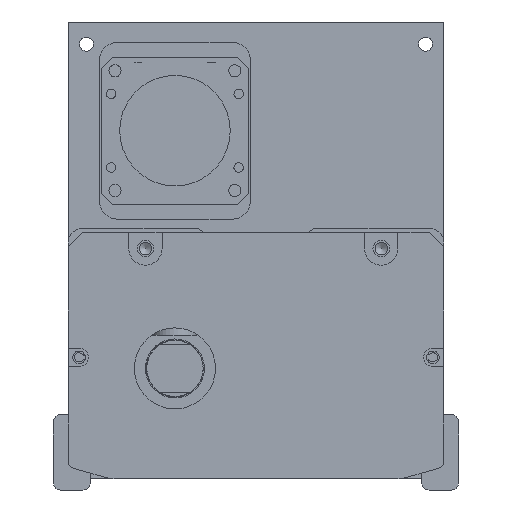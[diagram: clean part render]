
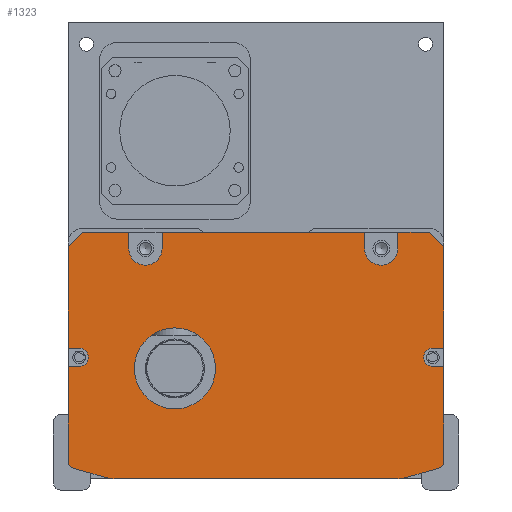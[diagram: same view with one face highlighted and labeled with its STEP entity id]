
A CAD part, front view. The second image highlights one B-rep face of the part: STEP entity #1323.
In plain terms, the highlighted planar face has unit normal (0, -1, 0).
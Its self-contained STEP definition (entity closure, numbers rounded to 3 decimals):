
#1323=ADVANCED_FACE('',(#3944,#3945),#2092,.F.);
#2092=PLANE('',#12837);
#2475=LINE('',#18355,#3237);
#2476=LINE('',#18358,#3238);
#2477=LINE('',#18360,#3239);
#2478=LINE('',#18362,#3240);
#2479=LINE('',#18366,#3241);
#2480=LINE('',#18368,#3242);
#2481=LINE('',#18370,#3243);
#2482=LINE('',#18374,#3244);
#2483=LINE('',#18376,#3245);
#2484=LINE('',#18378,#3246);
#2485=LINE('',#18380,#3247);
#2486=LINE('',#18382,#3248);
#2487=LINE('',#18386,#3249);
#2488=LINE('',#18388,#3250);
#2489=LINE('',#18392,#3251);
#2490=LINE('',#18396,#3252);
#2491=LINE('',#18400,#3253);
#2492=LINE('',#18404,#3254);
#2493=LINE('',#18406,#3255);
#2494=LINE('',#18410,#3256);
#3237=VECTOR('',#14536,1.);
#3238=VECTOR('',#14537,1.);
#3239=VECTOR('',#14538,1.);
#3240=VECTOR('',#14539,1.);
#3241=VECTOR('',#14542,1.);
#3242=VECTOR('',#14543,1.);
#3243=VECTOR('',#14544,1.);
#3244=VECTOR('',#14547,1.);
#3245=VECTOR('',#14548,1.);
#3246=VECTOR('',#14549,1.);
#3247=VECTOR('',#14550,1.);
#3248=VECTOR('',#14551,1.);
#3249=VECTOR('',#14554,1.);
#3250=VECTOR('',#14555,1.);
#3251=VECTOR('',#14558,1.);
#3252=VECTOR('',#14561,1.);
#3253=VECTOR('',#14564,1.);
#3254=VECTOR('',#14567,1.);
#3255=VECTOR('',#14568,1.);
#3256=VECTOR('',#14571,1.);
#3944=FACE_BOUND('',#4582,.T.);
#3945=FACE_BOUND('',#4583,.T.);
#4582=EDGE_LOOP('',(#5837,#5838,#5839,#5840,#5841,#5842,#5843,#5844,#5845,
#5846,#5847,#5848,#5849,#5850,#5851,#5852,#5853,#5854,#5855,#5856,#5857,
#5858,#5859,#5860,#5861,#5862,#5863,#5864));
#4583=EDGE_LOOP('',(#5865));
#5837=ORIENTED_EDGE('',*,*,#10468,.T.);
#5838=ORIENTED_EDGE('',*,*,#10469,.T.);
#5839=ORIENTED_EDGE('',*,*,#10470,.T.);
#5840=ORIENTED_EDGE('',*,*,#10471,.F.);
#5841=ORIENTED_EDGE('',*,*,#10472,.T.);
#5842=ORIENTED_EDGE('',*,*,#10473,.F.);
#5843=ORIENTED_EDGE('',*,*,#10474,.T.);
#5844=ORIENTED_EDGE('',*,*,#10475,.F.);
#5845=ORIENTED_EDGE('',*,*,#10476,.T.);
#5846=ORIENTED_EDGE('',*,*,#10477,.F.);
#5847=ORIENTED_EDGE('',*,*,#10478,.T.);
#5848=ORIENTED_EDGE('',*,*,#10479,.T.);
#5849=ORIENTED_EDGE('',*,*,#10480,.T.);
#5850=ORIENTED_EDGE('',*,*,#10481,.T.);
#5851=ORIENTED_EDGE('',*,*,#10482,.T.);
#5852=ORIENTED_EDGE('',*,*,#10483,.T.);
#5853=ORIENTED_EDGE('',*,*,#10484,.T.);
#5854=ORIENTED_EDGE('',*,*,#10485,.T.);
#5855=ORIENTED_EDGE('',*,*,#10486,.T.);
#5856=ORIENTED_EDGE('',*,*,#10487,.T.);
#5857=ORIENTED_EDGE('',*,*,#10488,.T.);
#5858=ORIENTED_EDGE('',*,*,#10489,.T.);
#5859=ORIENTED_EDGE('',*,*,#10490,.T.);
#5860=ORIENTED_EDGE('',*,*,#10491,.T.);
#5861=ORIENTED_EDGE('',*,*,#10492,.T.);
#5862=ORIENTED_EDGE('',*,*,#10493,.T.);
#5863=ORIENTED_EDGE('',*,*,#10494,.T.);
#5864=ORIENTED_EDGE('',*,*,#10495,.T.);
#5865=ORIENTED_EDGE('',*,*,#10496,.T.);
#9244=VERTEX_POINT('',#18356);
#9245=VERTEX_POINT('',#18357);
#9246=VERTEX_POINT('',#18359);
#9247=VERTEX_POINT('',#18361);
#9248=VERTEX_POINT('',#18363);
#9249=VERTEX_POINT('',#18365);
#9250=VERTEX_POINT('',#18367);
#9251=VERTEX_POINT('',#18369);
#9252=VERTEX_POINT('',#18371);
#9253=VERTEX_POINT('',#18373);
#9254=VERTEX_POINT('',#18375);
#9255=VERTEX_POINT('',#18377);
#9256=VERTEX_POINT('',#18379);
#9257=VERTEX_POINT('',#18381);
#9258=VERTEX_POINT('',#18383);
#9259=VERTEX_POINT('',#18385);
#9260=VERTEX_POINT('',#18387);
#9261=VERTEX_POINT('',#18389);
#9262=VERTEX_POINT('',#18391);
#9263=VERTEX_POINT('',#18393);
#9264=VERTEX_POINT('',#18395);
#9265=VERTEX_POINT('',#18397);
#9266=VERTEX_POINT('',#18399);
#9267=VERTEX_POINT('',#18401);
#9268=VERTEX_POINT('',#18403);
#9269=VERTEX_POINT('',#18405);
#9270=VERTEX_POINT('',#18407);
#9271=VERTEX_POINT('',#18409);
#9272=VERTEX_POINT('',#18412);
#10468=EDGE_CURVE('',#9244,#9245,#2475,.T.);
#10469=EDGE_CURVE('',#9245,#9246,#2476,.T.);
#10470=EDGE_CURVE('',#9246,#9247,#2477,.T.);
#10471=EDGE_CURVE('',#9248,#9247,#2478,.T.);
#10472=EDGE_CURVE('',#9248,#9249,#12077,.T.);
#10473=EDGE_CURVE('',#9250,#9249,#2479,.T.);
#10474=EDGE_CURVE('',#9250,#9251,#2480,.T.);
#10475=EDGE_CURVE('',#9252,#9251,#2481,.T.);
#10476=EDGE_CURVE('',#9252,#9253,#12078,.T.);
#10477=EDGE_CURVE('',#9254,#9253,#2482,.T.);
#10478=EDGE_CURVE('',#9254,#9255,#2483,.T.);
#10479=EDGE_CURVE('',#9255,#9256,#2484,.T.);
#10480=EDGE_CURVE('',#9256,#9257,#2485,.T.);
#10481=EDGE_CURVE('',#9257,#9258,#2486,.T.);
#10482=EDGE_CURVE('',#9258,#9259,#12079,.T.);
#10483=EDGE_CURVE('',#9259,#9260,#2487,.T.);
#10484=EDGE_CURVE('',#9260,#9261,#2488,.T.);
#10485=EDGE_CURVE('',#9261,#9262,#12080,.T.);
#10486=EDGE_CURVE('',#9262,#9263,#2489,.T.);
#10487=EDGE_CURVE('',#9263,#9264,#12081,.T.);
#10488=EDGE_CURVE('',#9264,#9265,#2490,.T.);
#10489=EDGE_CURVE('',#9265,#9266,#12082,.T.);
#10490=EDGE_CURVE('',#9266,#9267,#2491,.T.);
#10491=EDGE_CURVE('',#9267,#9268,#12083,.T.);
#10492=EDGE_CURVE('',#9268,#9269,#2492,.T.);
#10493=EDGE_CURVE('',#9269,#9270,#2493,.T.);
#10494=EDGE_CURVE('',#9270,#9271,#12084,.T.);
#10495=EDGE_CURVE('',#9271,#9244,#2494,.T.);
#10496=EDGE_CURVE('',#9272,#9272,#12085,.T.);
#12077=CIRCLE('',#12828,4.5);
#12078=CIRCLE('',#12829,4.5);
#12079=CIRCLE('',#12830,2.5);
#12080=CIRCLE('',#12831,2.);
#12081=CIRCLE('',#12832,10.);
#12082=CIRCLE('',#12833,10.);
#12083=CIRCLE('',#12834,2.);
#12084=CIRCLE('',#12835,2.5);
#12085=CIRCLE('',#12836,11.);
#12828=AXIS2_PLACEMENT_3D('',#18364,#14540,#14541);
#12829=AXIS2_PLACEMENT_3D('',#18372,#14545,#14546);
#12830=AXIS2_PLACEMENT_3D('',#18384,#14552,#14553);
#12831=AXIS2_PLACEMENT_3D('',#18390,#14556,#14557);
#12832=AXIS2_PLACEMENT_3D('',#18394,#14559,#14560);
#12833=AXIS2_PLACEMENT_3D('',#18398,#14562,#14563);
#12834=AXIS2_PLACEMENT_3D('',#18402,#14565,#14566);
#12835=AXIS2_PLACEMENT_3D('',#18408,#14569,#14570);
#12836=AXIS2_PLACEMENT_3D('',#18411,#14572,#14573);
#12837=AXIS2_PLACEMENT_3D('',#18413,#14574,#14575);
#14536=DIRECTION('',(0.,0.,1.));
#14537=DIRECTION('',(-0.707,0.,0.707));
#14538=DIRECTION('',(-1.,0.,0.));
#14539=DIRECTION('',(0.,0.,1.));
#14540=DIRECTION('',(0.,1.,0.));
#14541=DIRECTION('',(0.,0.,1.));
#14542=DIRECTION('',(0.,0.,-1.));
#14543=DIRECTION('',(-1.,0.,0.));
#14544=DIRECTION('',(0.,0.,1.));
#14545=DIRECTION('',(0.,1.,0.));
#14546=DIRECTION('',(0.,0.,1.));
#14547=DIRECTION('',(0.,0.,-1.));
#14548=DIRECTION('',(-1.,0.,0.));
#14549=DIRECTION('',(-0.707,0.,-0.707));
#14550=DIRECTION('',(0.,0.,-1.));
#14551=DIRECTION('',(1.,0.,0.));
#14552=DIRECTION('',(0.,1.,0.));
#14553=DIRECTION('',(0.,0.,1.));
#14554=DIRECTION('',(-1.,0.,0.));
#14555=DIRECTION('',(0.,0.,-1.));
#14556=DIRECTION('',(0.,-1.,0.));
#14557=DIRECTION('',(0.,0.,1.));
#14558=DIRECTION('',(0.963,0.,-0.269));
#14559=DIRECTION('',(0.,-1.,0.));
#14560=DIRECTION('',(0.,0.,1.));
#14561=DIRECTION('',(1.,0.,0.));
#14562=DIRECTION('',(0.,-1.,0.));
#14563=DIRECTION('',(0.,0.,-1.));
#14564=DIRECTION('',(0.963,0.,0.269));
#14565=DIRECTION('',(0.,-1.,0.));
#14566=DIRECTION('',(0.,0.,-1.));
#14567=DIRECTION('',(0.,0.,1.));
#14568=DIRECTION('',(-1.,0.,0.));
#14569=DIRECTION('',(0.,1.,0.));
#14570=DIRECTION('',(0.,0.,1.));
#14571=DIRECTION('',(1.,0.,0.));
#14572=DIRECTION('',(0.,1.,0.));
#14573=DIRECTION('',(0.,0.,1.));
#14574=DIRECTION('',(0.,1.,0.));
#14575=DIRECTION('',(-1.,0.,0.));
#18355=CARTESIAN_POINT('',(47.808,-267.5,-1.));
#18356=CARTESIAN_POINT('',(47.808,-267.5,-32.5));
#18357=CARTESIAN_POINT('',(47.808,-267.5,-5.));
#18358=CARTESIAN_POINT('',(43.808,-267.5,-1.));
#18359=CARTESIAN_POINT('',(43.808,-267.5,-1.));
#18360=CARTESIAN_POINT('',(-3.192,-267.5,-1.));
#18361=CARTESIAN_POINT('',(35.308,-267.5,-1.));
#18362=CARTESIAN_POINT('',(35.308,-267.5,-1.));
#18363=CARTESIAN_POINT('',(35.308,-267.5,-5.5));
#18364=CARTESIAN_POINT('',(30.808,-267.5,-5.5));
#18365=CARTESIAN_POINT('',(26.308,-267.5,-5.5));
#18366=CARTESIAN_POINT('',(26.308,-267.5,-1.));
#18367=CARTESIAN_POINT('',(26.308,-267.5,-1.));
#18368=CARTESIAN_POINT('',(-54.192,-267.5,-1.));
#18369=CARTESIAN_POINT('',(-28.692,-267.5,-1.));
#18370=CARTESIAN_POINT('',(-28.692,-267.5,-3.5));
#18371=CARTESIAN_POINT('',(-28.692,-267.5,-5.5));
#18372=CARTESIAN_POINT('',(-33.192,-267.5,-5.5));
#18373=CARTESIAN_POINT('',(-37.692,-267.5,-5.5));
#18374=CARTESIAN_POINT('',(-37.692,-267.5,-1.));
#18375=CARTESIAN_POINT('',(-37.692,-267.5,-1.));
#18376=CARTESIAN_POINT('',(-54.192,-267.5,-1.));
#18377=CARTESIAN_POINT('',(-50.192,-267.5,-1.));
#18378=CARTESIAN_POINT('',(-54.192,-267.5,-5.));
#18379=CARTESIAN_POINT('',(-54.192,-267.5,-5.));
#18380=CARTESIAN_POINT('',(-54.192,-267.5,-62.));
#18381=CARTESIAN_POINT('',(-54.192,-267.5,-32.5));
#18382=CARTESIAN_POINT('',(-3.192,-267.5,-32.5));
#18383=CARTESIAN_POINT('',(-51.192,-267.5,-32.5));
#18384=CARTESIAN_POINT('',(-51.192,-267.5,-35.));
#18385=CARTESIAN_POINT('',(-51.192,-267.5,-37.5));
#18386=CARTESIAN_POINT('',(-3.192,-267.5,-37.5));
#18387=CARTESIAN_POINT('',(-54.192,-267.5,-37.5));
#18388=CARTESIAN_POINT('',(-54.192,-267.5,-62.));
#18389=CARTESIAN_POINT('',(-54.192,-267.5,-63.212));
#18390=CARTESIAN_POINT('',(-52.192,-267.5,-63.212));
#18391=CARTESIAN_POINT('',(-52.731,-267.5,-65.138));
#18392=CARTESIAN_POINT('',(-55.807,-267.5,-64.279));
#18393=CARTESIAN_POINT('',(-43.809,-267.5,-67.631));
#18394=CARTESIAN_POINT('',(-41.118,-267.5,-58.));
#18395=CARTESIAN_POINT('',(-41.118,-267.5,-68.));
#18396=CARTESIAN_POINT('',(-54.692,-267.5,-68.));
#18397=CARTESIAN_POINT('',(34.733,-267.5,-68.));
#18398=CARTESIAN_POINT('',(34.733,-267.5,-58.));
#18399=CARTESIAN_POINT('',(37.424,-267.5,-67.631));
#18400=CARTESIAN_POINT('',(49.422,-267.5,-64.279));
#18401=CARTESIAN_POINT('',(46.346,-267.5,-65.138));
#18402=CARTESIAN_POINT('',(45.808,-267.5,-63.212));
#18403=CARTESIAN_POINT('',(47.808,-267.5,-63.212));
#18404=CARTESIAN_POINT('',(47.808,-267.5,-1.));
#18405=CARTESIAN_POINT('',(47.808,-267.5,-37.5));
#18406=CARTESIAN_POINT('',(-3.192,-267.5,-37.5));
#18407=CARTESIAN_POINT('',(44.808,-267.5,-37.5));
#18408=CARTESIAN_POINT('',(44.808,-267.5,-35.));
#18409=CARTESIAN_POINT('',(44.808,-267.5,-32.5));
#18410=CARTESIAN_POINT('',(-3.192,-267.5,-32.5));
#18411=CARTESIAN_POINT('',(-25.192,-267.5,-38.));
#18412=CARTESIAN_POINT('',(-25.192,-267.5,-27.));
#18413=CARTESIAN_POINT('',(-3.192,-267.5,-1.));
